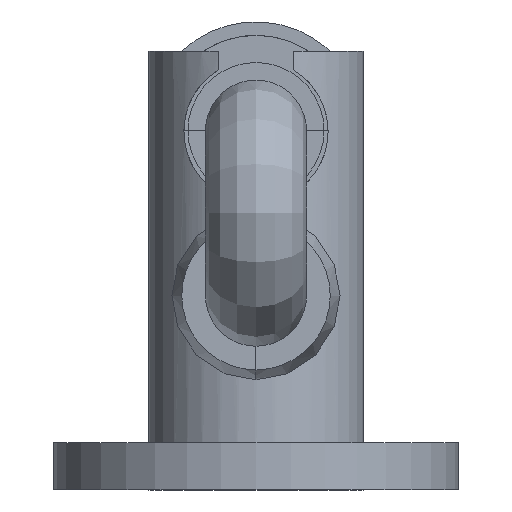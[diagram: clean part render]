
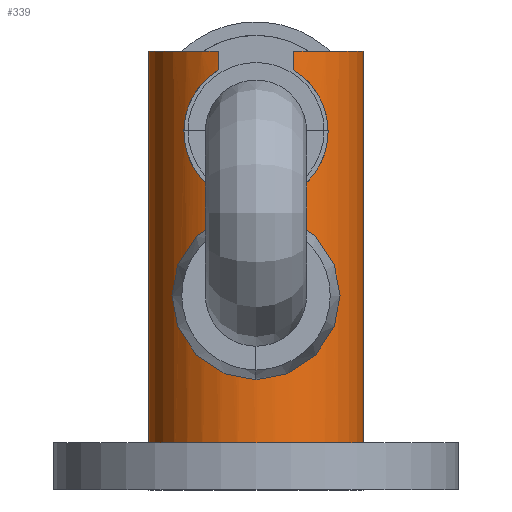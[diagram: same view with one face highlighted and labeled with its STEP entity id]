
A CAD part, front view. The second image highlights one B-rep face of the part: STEP entity #339.
In plain terms, the highlighted cylindrical face has radius 15.904 mm (diameter 31.808 mm), a partial arc.
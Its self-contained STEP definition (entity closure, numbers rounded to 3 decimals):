
#252 = VERTEX_POINT('',#253);
#253 = CARTESIAN_POINT('',(-15.904,0.,
    65.019));
#260 = EDGE_CURVE('',#252,#261,#263,.T.);
#261 = VERTEX_POINT('',#262);
#262 = CARTESIAN_POINT('',(-5.574,-14.895,
    65.019));
#263 = CIRCLE('',#264,15.904);
#264 = AXIS2_PLACEMENT_3D('',#265,#266,#267);
#265 = CARTESIAN_POINT('',(0.,0.,
    65.019));
#266 = DIRECTION('',(0.,0.,1.));
#267 = DIRECTION('',(1.,0.,-0.));
#285 = VERTEX_POINT('',#286);
#286 = CARTESIAN_POINT('',(15.904,0.,
    65.019));
#295 = VERTEX_POINT('',#296);
#296 = CARTESIAN_POINT('',(5.574,-14.895,
    65.019));
#302 = EDGE_CURVE('',#295,#285,#303,.T.);
#303 = CIRCLE('',#304,15.904);
#304 = AXIS2_PLACEMENT_3D('',#305,#306,#307);
#305 = CARTESIAN_POINT('',(0.,0.,
    65.019));
#306 = DIRECTION('',(0.,0.,1.));
#307 = DIRECTION('',(1.,0.,-0.));
#318 = VERTEX_POINT('',#319);
#319 = CARTESIAN_POINT('',(-15.904,0.,
    0.));
#320 = VERTEX_POINT('',#321);
#321 = CARTESIAN_POINT('',(15.904,0.,
    0.));
#328 = EDGE_CURVE('',#320,#318,#329,.T.);
#329 = CIRCLE('',#330,15.904);
#330 = AXIS2_PLACEMENT_3D('',#331,#332,#333);
#331 = CARTESIAN_POINT('',(0.,0.,
    0.));
#332 = DIRECTION('',(0.,0.,-1.));
#333 = DIRECTION('',(1.,0.,0.));
#339 = ADVANCED_FACE('',(#340),#419,.T.);
#340 = FACE_BOUND('',#341,.T.);
#341 = EDGE_LOOP('',(#342,#343,#349,#350,#358,#406,#412,#413));
#342 = ORIENTED_EDGE('',*,*,#328,.F.);
#343 = ORIENTED_EDGE('',*,*,#344,.T.);
#344 = EDGE_CURVE('',#320,#285,#345,.T.);
#345 = LINE('',#346,#347);
#346 = CARTESIAN_POINT('',(15.904,0.,
    65.019));
#347 = VECTOR('',#348,1.);
#348 = DIRECTION('',(0.,0.,1.));
#349 = ORIENTED_EDGE('',*,*,#302,.F.);
#350 = ORIENTED_EDGE('',*,*,#351,.T.);
#351 = EDGE_CURVE('',#295,#352,#354,.T.);
#352 = VERTEX_POINT('',#353);
#353 = CARTESIAN_POINT('',(5.574,-14.895,
    62.298));
#354 = LINE('',#355,#356);
#355 = CARTESIAN_POINT('',(5.574,-14.895,
    65.019));
#356 = VECTOR('',#357,1.);
#357 = DIRECTION('',(0.,0.,-1.));
#358 = ORIENTED_EDGE('',*,*,#359,.T.);
#359 = EDGE_CURVE('',#352,#360,#362,.T.);
#360 = VERTEX_POINT('',#361);
#361 = CARTESIAN_POINT('',(-5.574,-14.895,
    62.298));
#362 = B_SPLINE_CURVE_WITH_KNOTS('',3,(#363,#364,#365,#366,#367,#368,
    #369,#370,#371,#372,#373,#374,#375,#376,#377,#378,#379,#380,#381,
    #382,#383,#384,#385,#386,#387,#388,#389,#390,#391,#392,#393,#394,
    #395,#396,#397,#398,#399,#400,#401,#402,#403,#404,#405),
  .UNSPECIFIED.,.F.,.F.,(4,2,2,2,3,2,2,2,2,2,2,2,2,2,2,2,2,2,2,2,4),(
    -1.105,-0.845,-0.422,-0.211,0.,
    0.211,0.422,0.845,1.262,
    1.471,1.68,1.888,2.097,
    2.515,2.937,3.148,3.359,
    3.57,3.782,4.204,4.464),
  .UNSPECIFIED.);
#363 = CARTESIAN_POINT('',(5.574,-14.895,
    62.298));
#364 = CARTESIAN_POINT('',(6.317,-14.617,61.844
    ));
#365 = CARTESIAN_POINT('',(6.987,-14.302,61.308
    ));
#366 = CARTESIAN_POINT('',(8.491,-13.489,
    59.805));
#367 = CARTESIAN_POINT('',(9.301,-12.92,
    58.635));
#368 = CARTESIAN_POINT('',(10.126,-12.269,
    56.679));
#369 = CARTESIAN_POINT('',(10.339,-12.086,
    55.993));
#370 = CARTESIAN_POINT('',(10.622,-11.838,
    54.592));
#371 = CARTESIAN_POINT('',(10.692,-11.773,
    53.878));
#372 = CARTESIAN_POINT('',(10.692,-11.773,
    53.174));
#373 = CARTESIAN_POINT('',(10.692,-11.773,
    52.47));
#374 = CARTESIAN_POINT('',(10.622,-11.838,
    51.756));
#375 = CARTESIAN_POINT('',(10.339,-12.086,
    50.355));
#376 = CARTESIAN_POINT('',(10.126,-12.269,
    49.669));
#377 = CARTESIAN_POINT('',(9.301,-12.92,
    47.713));
#378 = CARTESIAN_POINT('',(8.491,-13.489,
    46.543));
#379 = CARTESIAN_POINT('',(6.641,-14.489,
    44.694));
#380 = CARTESIAN_POINT('',(5.469,-14.996,
    43.877));
#381 = CARTESIAN_POINT('',(3.502,-15.529,
    43.046));
#382 = CARTESIAN_POINT('',(2.811,-15.67,
    42.833));
#383 = CARTESIAN_POINT('',(1.408,-15.857,42.551)
  );
#384 = CARTESIAN_POINT('',(0.696,-15.904,
    42.482));
#385 = CARTESIAN_POINT('',(-0.696,-15.904,
    42.482));
#386 = CARTESIAN_POINT('',(-1.408,-15.857,42.551
    ));
#387 = CARTESIAN_POINT('',(-2.811,-15.67,
    42.833));
#388 = CARTESIAN_POINT('',(-3.502,-15.529,
    43.046));
#389 = CARTESIAN_POINT('',(-5.469,-14.996,
    43.877));
#390 = CARTESIAN_POINT('',(-6.641,-14.489,
    44.694));
#391 = CARTESIAN_POINT('',(-8.491,-13.489,
    46.543));
#392 = CARTESIAN_POINT('',(-9.301,-12.92,
    47.713));
#393 = CARTESIAN_POINT('',(-10.126,-12.269,
    49.669));
#394 = CARTESIAN_POINT('',(-10.339,-12.086,
    50.355));
#395 = CARTESIAN_POINT('',(-10.622,-11.838,
    51.756));
#396 = CARTESIAN_POINT('',(-10.692,-11.773,
    52.47));
#397 = CARTESIAN_POINT('',(-10.692,-11.773,
    53.878));
#398 = CARTESIAN_POINT('',(-10.622,-11.838,
    54.592));
#399 = CARTESIAN_POINT('',(-10.339,-12.086,
    55.993));
#400 = CARTESIAN_POINT('',(-10.126,-12.269,
    56.679));
#401 = CARTESIAN_POINT('',(-9.301,-12.92,
    58.635));
#402 = CARTESIAN_POINT('',(-8.491,-13.489,
    59.805));
#403 = CARTESIAN_POINT('',(-6.987,-14.302,61.308)
  );
#404 = CARTESIAN_POINT('',(-6.317,-14.617,
    61.844));
#405 = CARTESIAN_POINT('',(-5.574,-14.895,
    62.298));
#406 = ORIENTED_EDGE('',*,*,#407,.T.);
#407 = EDGE_CURVE('',#360,#261,#408,.T.);
#408 = LINE('',#409,#410);
#409 = CARTESIAN_POINT('',(-5.574,-14.895,
    62.298));
#410 = VECTOR('',#411,1.);
#411 = DIRECTION('',(0.,0.,1.));
#412 = ORIENTED_EDGE('',*,*,#260,.F.);
#413 = ORIENTED_EDGE('',*,*,#414,.T.);
#414 = EDGE_CURVE('',#252,#318,#415,.T.);
#415 = LINE('',#416,#417);
#416 = CARTESIAN_POINT('',(-15.904,0.,
    65.019));
#417 = VECTOR('',#418,1.);
#418 = DIRECTION('',(0.,0.,-1.));
#419 = CYLINDRICAL_SURFACE('',#420,15.904);
#420 = AXIS2_PLACEMENT_3D('',#421,#422,#423);
#421 = CARTESIAN_POINT('',(0.,0.,
    0.));
#422 = DIRECTION('',(0.,0.,1.));
#423 = DIRECTION('',(1.,0.,-0.));
